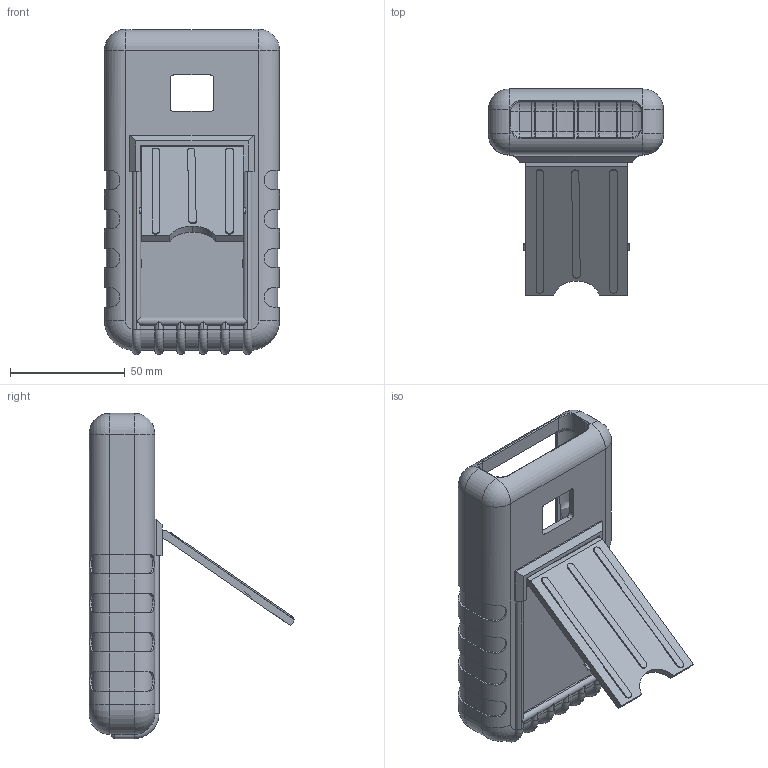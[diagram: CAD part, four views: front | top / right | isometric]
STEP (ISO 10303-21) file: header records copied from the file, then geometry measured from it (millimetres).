
FILE_DESCRIPTION (( 'STEP AP214' ), '1' );
FILE_NAME ('55 RBT.SLDPRT.STEP', '2020-06-22T18:54:02', ( 'Rudy' ), ( '' ), 'SwSTEP 2.0', 'SolidWorks 2014', '' );
FILE_SCHEMA (( 'AUTOMOTIVE_DESIGN' ));
Length unit declared in the file: inch
Products named in the file (3): 55 RBT.SLDPRT; 55 Stand; 55 RBT
Assembly tree (2 placements, depth 2):
  55 RBT.SLDPRT
    55 RBT
    55 Stand
Bounding box: 76.2 x 89.53 x 141.55 mm (x, y, z)
Volume: 73175.3 mm3; surface area: 50503.8 mm2
Topology: 2 solids, 2 shells, 397 faces, 1082 edges, 684 vertices
Faces by surface type: plane 162, cylinder 141, torus 46, bspline 44, sphere 4
Entity records: 17958 total; most frequent: CARTESIAN_POINT 8194, ORIENTED_EDGE 2156, DIRECTION 1888, EDGE_CURVE 1078, VERTEX_POINT 684, AXIS2_PLACEMENT_3D 678, VECTOR 532, LINE 532
